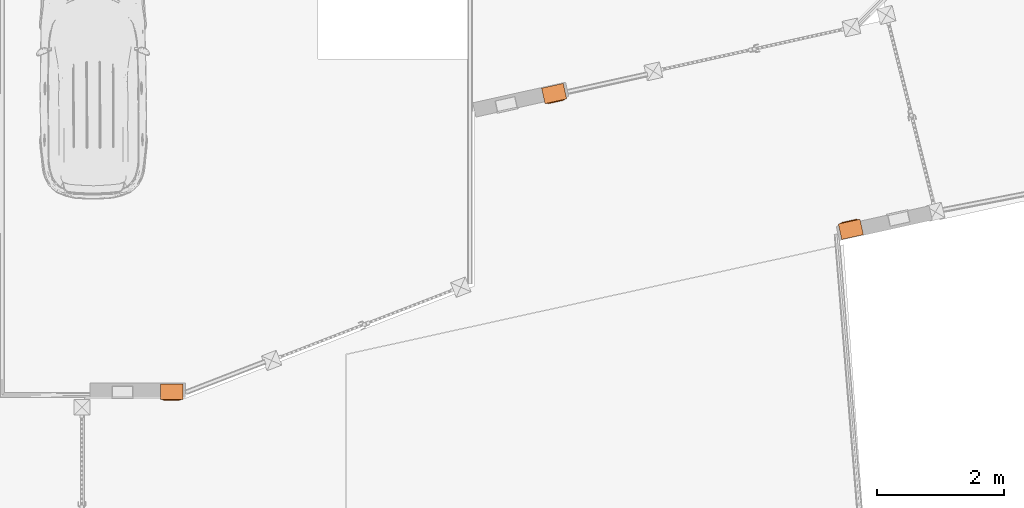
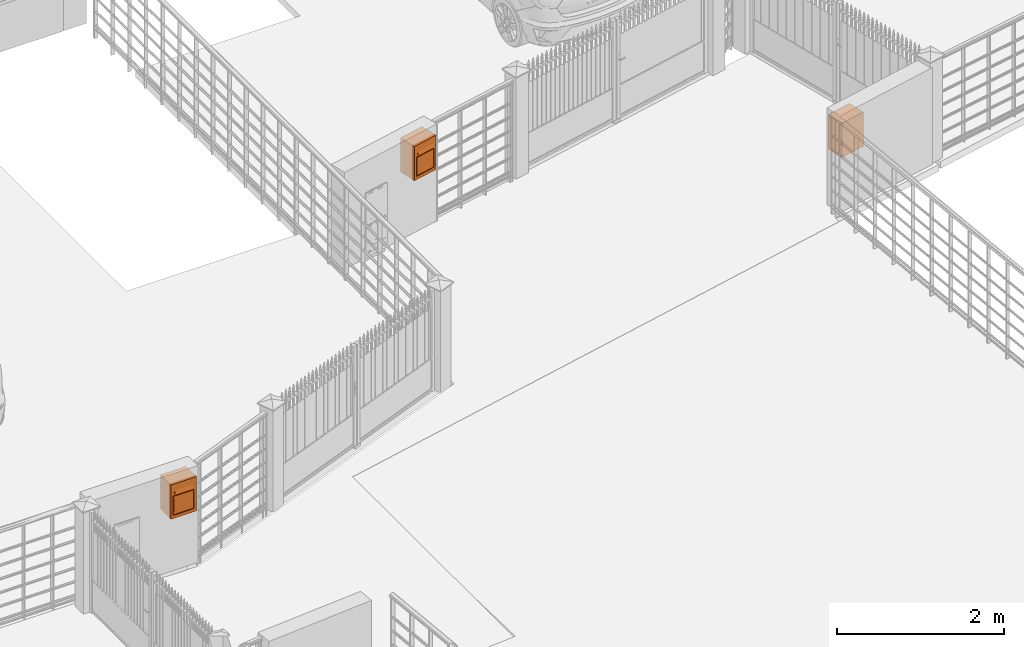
# One storey, part 32 of 33: 3 proxies.
"""IFC2X3 building model written with IfcOpenShell, lengths in metres."""

from ifc_helpers import new_model, entity, si_unit, converted_unit, derived_unit, direction, frame, origin, place, context, subcontext, project, spatial, faceted_brep, source, transform, mapped, material, material_list, element, save


model = new_model("IFC2X3")

# Units and contexts
model_context = context("Model", 3, precision=1e-05, world=origin(), true_north=direction((6.12303176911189e-17, 1.0)))
context_of_model = context(None, 3, precision=1e-05, world=origin(), true_north=direction((6.12303176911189e-17, 1.0)))
body_context = subcontext(model_context, "Body", "Model", "MODEL_VIEW")
ifc_project = project(units=[si_unit("LENGTHUNIT", "METRE"), si_unit("AREAUNIT", "SQUARE_METRE"), si_unit("VOLUMEUNIT", "CUBIC_METRE"), converted_unit("PLANEANGLEUNIT", "DEGREE", entity("IfcRatioMeasure", 0.0174532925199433), si_unit("PLANEANGLEUNIT", "RADIAN"), dimensions=[0, 0, 0, 0, 0, 0, 0]), si_unit("MASSUNIT", "GRAM", prefix="KILO"), si_unit("TIMEUNIT", "SECOND"), si_unit("FREQUENCYUNIT", "HERTZ"), si_unit("THERMODYNAMICTEMPERATUREUNIT", "DEGREE_CELSIUS"), derived_unit("THERMALTRANSMITTANCEUNIT", [(si_unit("MASSUNIT", "GRAM", prefix="KILO"), 1), (si_unit("THERMODYNAMICTEMPERATUREUNIT", "KELVIN"), -1), (si_unit("TIMEUNIT", "SECOND"), -3)]), derived_unit("VOLUMETRICFLOWRATEUNIT", [(si_unit("LENGTHUNIT", "METRE"), 3), (si_unit("TIMEUNIT", "SECOND"), -1)]), si_unit("ELECTRICCURRENTUNIT", "AMPERE"), si_unit("ELECTRICVOLTAGEUNIT", "VOLT"), si_unit("POWERUNIT", "WATT"), si_unit("FORCEUNIT", "NEWTON", prefix="KILO"), si_unit("ILLUMINANCEUNIT", "LUX"), si_unit("LUMINOUSFLUXUNIT", "LUMEN"), si_unit("LUMINOUSINTENSITYUNIT", "CANDELA"), si_unit("PRESSUREUNIT", "PASCAL")], contexts=[model_context, context_of_model])

# Site, building, storey
site_placement = place(None, origin())
site = spatial("IfcSite", under=ifc_project, at=site_placement, Name="Surface", CompositionType="ELEMENT")
building_placement = place(site_placement, origin())
building = spatial("IfcBuilding", under=site, at=building_placement, CompositionType="ELEMENT")
storey_placement = place(building_placement, origin())
storey = spatial("IfcBuildingStorey", under=building, at=storey_placement, Name="Plan des fondations  Maisons 1 et 2", CompositionType="ELEMENT", Elevation=0.0)

# Proxies
ifc_material_1 = material(Name="Peinture - Noir brillant")
ifc_material_2 = material(Name="Peinture - Gris")
ifc_material_list_1 = material_list([ifc_material_1, ifc_material_2])
shared_shape = source(origin(), body_context, "Body", "Brep", [
    faceted_brep([(0.0395430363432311, 0.251294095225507, 0.0548296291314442), (0.0397134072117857, 0.249999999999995, 0.133076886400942), (0.0397134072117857, 0.249999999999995, 0.0549999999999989), (0.0395430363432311, 0.251294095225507, 0.320170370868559), (0.0397134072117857, 0.249999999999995, 0.320000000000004), (0.0397134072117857, 0.249999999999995, 0.280961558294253), (0.0343532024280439, 0.254987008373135, 0.272372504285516), (0.0334193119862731, 0.25482962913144, 0.326294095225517), (0.0347134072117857, 0.254999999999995, 0.325000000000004), (0.0343715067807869, 0.25498829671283, 0.155288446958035), (0.0397134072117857, 0.249999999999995, 0.211153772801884), (0.0303832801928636, 0.252499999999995, 0.329330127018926), (0.0297134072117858, 0.249999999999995, 0.251923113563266), (0.0360075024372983, 0.25482962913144, 0.323705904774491), (0.0372134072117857, 0.254330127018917, 0.322500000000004), (0.0297134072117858, 0.249999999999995, 0.330000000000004), (0.0298837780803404, 0.251294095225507, 0.329829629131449), (0.0298837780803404, 0.251294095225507, 0.0451703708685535), (0.0297134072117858, 0.249999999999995, 0.0449999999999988), (0.0297134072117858, 0.249999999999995, 0.123076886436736), (0.0382489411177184, 0.253535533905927, 0.321464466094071), (0.0303832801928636, 0.252499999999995, 0.0456698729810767), (0.0297134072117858, 0.249999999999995, 0.187499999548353), (0.0341085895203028, 0.254963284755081, 0.219711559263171), (0.0347134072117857, 0.254999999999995, 0.0499999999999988), (0.0334193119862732, 0.25482962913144, 0.0487059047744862), (0.0357268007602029, 0.25489622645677, 0.10372298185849), (0.0311778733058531, 0.253535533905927, 0.0464644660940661), (0.0322134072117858, 0.254330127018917, 0.327500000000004), (0.0390435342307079, 0.252499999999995, 0.320669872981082), (0.031177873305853, 0.253535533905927, 0.328535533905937), (0.0372134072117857, 0.254330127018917, 0.0524999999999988), (0.0360075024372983, 0.25482962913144, 0.0512940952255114), (0.0390435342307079, 0.252499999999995, 0.054330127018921), (0.0382489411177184, 0.253535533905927, 0.0535355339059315), (0.0322134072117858, 0.254330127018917, 0.0474999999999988), (0.117790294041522, 0.249999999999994, 0.320000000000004), (0.309883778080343, 0.251294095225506, 0.320170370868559), (0.309713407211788, 0.249999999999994, 0.320000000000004), (0.231636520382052, 0.249999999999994, 0.320000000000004), (0.264257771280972, 0.25498988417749, 0.325317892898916), (0.316007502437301, 0.254829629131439, 0.326294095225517), (0.314713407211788, 0.254999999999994, 0.325000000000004), (0.174713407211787, 0.249999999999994, 0.330000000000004), (0.21375185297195, 0.25499172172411, 0.32528760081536), (0.150971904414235, 0.254988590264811, 0.324662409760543), (0.107790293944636, 0.249999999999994, 0.330000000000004), (0.0933594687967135, 0.254973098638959, 0.324482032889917), (0.312213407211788, 0.254330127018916, 0.322500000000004), (0.313419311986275, 0.254829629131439, 0.323705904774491), (0.319713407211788, 0.249999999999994, 0.330000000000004), (0.319543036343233, 0.251294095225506, 0.329829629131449), (0.241636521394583, 0.249999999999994, 0.330000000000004), (0.317213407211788, 0.254330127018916, 0.327500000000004), (0.310383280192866, 0.252499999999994, 0.320669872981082), (0.31904353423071, 0.252499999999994, 0.329330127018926), (0.318248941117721, 0.253535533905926, 0.328535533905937), (0.311177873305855, 0.253535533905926, 0.321464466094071), (0.195867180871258, 0.249999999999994, 0.320000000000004), (0.309713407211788, 0.249999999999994, 0.241923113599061), (0.309883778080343, 0.251294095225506, 0.0548296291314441), (0.309713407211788, 0.249999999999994, 0.0549999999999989), (0.309713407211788, 0.249999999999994, 0.0940384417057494), (0.31507361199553, 0.254987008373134, 0.102627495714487), (0.316007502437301, 0.254829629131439, 0.0487059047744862), (0.314713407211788, 0.254999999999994, 0.0499999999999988), (0.315055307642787, 0.254988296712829, 0.219711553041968), (0.309713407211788, 0.249999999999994, 0.163846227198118), (0.31904353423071, 0.252499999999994, 0.0456698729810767), (0.319713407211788, 0.249999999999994, 0.123076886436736), (0.313419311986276, 0.254829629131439, 0.0512940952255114), (0.312213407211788, 0.254330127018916, 0.0524999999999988), (0.319713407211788, 0.249999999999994, 0.0449999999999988), (0.319543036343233, 0.251294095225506, 0.0451703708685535), (0.319713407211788, 0.249999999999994, 0.251923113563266), (0.311177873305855, 0.253535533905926, 0.0535355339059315), (0.319713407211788, 0.249999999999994, 0.187499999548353), (0.315318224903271, 0.25496328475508, 0.155288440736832), (0.313700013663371, 0.254896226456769, 0.271277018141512), (0.317213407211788, 0.254330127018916, 0.0474999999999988), (0.310383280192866, 0.252499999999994, 0.0543301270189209), (0.318248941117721, 0.253535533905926, 0.0464644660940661), (0.107790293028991, 0.249999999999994, 0.0449999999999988), (0.174713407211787, 0.249999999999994, 0.0449999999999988), (0.241636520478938, 0.249999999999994, 0.0449999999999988), (0.231636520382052, 0.249999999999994, 0.0549999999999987), (0.153559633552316, 0.249999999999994, 0.0549999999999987), (0.117790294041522, 0.249999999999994, 0.0549999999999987), (0.0851690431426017, 0.25498988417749, 0.0496821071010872), (0.135674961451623, 0.25499172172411, 0.0497123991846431), (0.198454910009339, 0.25498859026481, 0.0503375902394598), (0.25606734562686, 0.254973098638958, 0.0505179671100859)], [[[0, 1, 2]], [[3, 4, 5]], [[6, 7, 8]], [[9, 10, 1]], [[11, 6, 12]], [[6, 13, 14]], [[15, 16, 12]], [[17, 18, 19]], [[20, 6, 14]], [[21, 17, 19]], [[19, 22, 9]], [[23, 12, 6]], [[24, 25, 26]], [[19, 27, 21]], [[9, 23, 10]], [[6, 28, 7]], [[1, 0, 26]], [[3, 5, 29]], [[29, 5, 20]], [[11, 30, 6]], [[26, 31, 32]], [[26, 33, 34]], [[10, 6, 5]], [[1, 26, 9]], [[23, 6, 10]], [[24, 26, 32]], [[19, 26, 27]], [[12, 23, 22]], [[26, 34, 31]], [[28, 6, 30]], [[26, 0, 33]], [[11, 12, 16]], [[25, 35, 26]], [[9, 26, 19]], [[9, 22, 23]], [[26, 35, 27]], [[8, 13, 6]], [[6, 20, 5]], [[3, 36, 4]], [[37, 38, 39]], [[40, 41, 42]], [[43, 44, 45]], [[46, 45, 47]], [[48, 40, 49]], [[50, 51, 52]], [[16, 15, 46]], [[39, 44, 40]], [[11, 16, 46]], [[43, 45, 46]], [[8, 47, 13]], [[47, 45, 36]], [[46, 30, 11]], [[3, 47, 36]], [[40, 53, 41]], [[43, 52, 44]], [[37, 39, 54]], [[39, 40, 54]], [[55, 56, 40]], [[20, 14, 47]], [[47, 29, 20]], [[48, 57, 40]], [[55, 40, 52]], [[58, 44, 39]], [[44, 52, 40]], [[42, 49, 40]], [[30, 46, 47]], [[13, 47, 14]], [[53, 40, 56]], [[47, 3, 29]], [[55, 52, 51]], [[7, 28, 47]], [[47, 8, 7]], [[45, 58, 36]], [[47, 28, 30]], [[58, 45, 44]], [[57, 54, 40]], [[37, 59, 38]], [[60, 61, 62]], [[63, 64, 65]], [[66, 67, 59]], [[68, 63, 69]], [[63, 70, 71]], [[72, 73, 69]], [[51, 50, 74]], [[75, 63, 71]], [[55, 51, 74]], [[74, 76, 66]], [[77, 69, 63]], [[42, 41, 78]], [[74, 56, 55]], [[66, 77, 67]], [[63, 79, 64]], [[59, 37, 78]], [[60, 62, 80]], [[80, 62, 75]], [[68, 81, 63]], [[78, 48, 49]], [[78, 54, 57]], [[67, 63, 62]], [[59, 78, 66]], [[77, 63, 67]], [[42, 78, 49]], [[74, 78, 56]], [[69, 77, 76]], [[78, 57, 48]], [[79, 63, 81]], [[78, 37, 54]], [[68, 69, 73]], [[41, 53, 78]], [[66, 78, 74]], [[66, 76, 77]], [[78, 53, 56]], [[65, 70, 63]], [[63, 75, 62]], [[50, 38, 59]], [[50, 59, 67]], [[50, 67, 62]], [[50, 62, 61]], [[50, 39, 38]], [[50, 58, 39]], [[50, 36, 58]], [[50, 4, 36]], [[4, 50, 52]], [[61, 74, 50]], [[4, 52, 43]], [[4, 43, 46]], [[4, 46, 15]], [[15, 5, 4]], [[15, 10, 5]], [[15, 1, 10]], [[15, 2, 1]], [[2, 15, 12]], [[2, 12, 22]], [[2, 22, 19]], [[2, 19, 18]], [[2, 18, 82]], [[2, 82, 83]], [[2, 83, 84]], [[2, 84, 72]], [[72, 61, 85]], [[61, 72, 69]], [[72, 85, 86]], [[72, 86, 87]], [[72, 87, 2]], [[61, 69, 76]], [[61, 76, 74]], [[60, 85, 61]], [[0, 2, 87]], [[88, 25, 24]], [[83, 89, 90]], [[84, 90, 91]], [[31, 88, 32]], [[18, 17, 82]], [[73, 72, 84]], [[87, 89, 88]], [[68, 73, 84]], [[83, 90, 84]], [[65, 91, 70]], [[91, 90, 85]], [[84, 81, 68]], [[60, 91, 85]], [[88, 35, 25]], [[83, 82, 89]], [[0, 87, 33]], [[87, 88, 33]], [[21, 27, 88]], [[75, 71, 91]], [[91, 80, 75]], [[31, 34, 88]], [[21, 88, 82]], [[86, 89, 87]], [[89, 82, 88]], [[24, 32, 88]], [[81, 84, 91]], [[70, 91, 71]], [[35, 88, 27]], [[91, 60, 80]], [[21, 82, 17]], [[64, 79, 91]], [[91, 65, 64]], [[90, 86, 85]], [[91, 79, 81]], [[86, 90, 89]], [[34, 33, 88]]]),
    faceted_brep([(0.35, 0.0, 0.500000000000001), (0.35, 0.249999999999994, 0.500000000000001), (0.0, 0.249999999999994, 0.500000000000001), (0.0, 0.0, 0.500000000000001), (0.35, 0.0, 0.0), (0.0, 0.0, 0.0), (0.0, 0.249999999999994, 0.0), (0.35, 0.249999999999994, 0.0), (0.300000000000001, 0.249999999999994, 0.399999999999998), (0.0500000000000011, 0.249999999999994, 0.399999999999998), (0.0500000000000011, 0.249999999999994, 0.390317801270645), (0.0500000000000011, 0.249999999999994, 0.350000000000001), (0.300000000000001, 0.249999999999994, 0.350000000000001), (0.300000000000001, 0.249999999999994, 0.390317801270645), (0.340000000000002, 0.00999999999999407, 0.489999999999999), (0.010000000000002, 0.00999999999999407, 0.489999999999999), (0.010000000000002, 0.239999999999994, 0.489999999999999), (0.340000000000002, 0.239999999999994, 0.489999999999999), (0.340000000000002, 0.00999999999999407, 0.0100000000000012), (0.340000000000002, 0.239999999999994, 0.0100000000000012), (0.010000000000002, 0.239999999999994, 0.0100000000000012), (0.010000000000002, 0.00999999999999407, 0.0100000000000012), (0.0500000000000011, 0.239999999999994, 0.350000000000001), (0.0500000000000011, 0.239999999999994, 0.399999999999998), (0.300000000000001, 0.239999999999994, 0.399999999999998), (0.300000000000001, 0.239999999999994, 0.350000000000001)], [[[0, 1, 2, 3]], [[4, 5, 6, 7]], [[1, 0, 4, 7]], [[2, 1, 7, 6], [8, 9, 10, 11, 12, 13]], [[3, 2, 6, 5]], [[0, 3, 5, 4]], [[14, 15, 16, 17]], [[18, 19, 20, 21]], [[14, 17, 19, 18]], [[17, 16, 20, 19], [22, 23, 24, 25]], [[16, 15, 21, 20]], [[15, 14, 18, 21]], [[9, 23, 22, 11, 10]], [[23, 9, 8, 24]], [[24, 8, 13, 12, 25]], [[11, 22, 25, 12]]]),
    faceted_brep([(0.300000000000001, 0.263738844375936, 0.351924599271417), (0.300000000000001, 0.249999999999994, 0.399999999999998), (0.300000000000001, 0.249999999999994, 0.390317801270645), (0.300000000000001, 0.261180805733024, 0.351193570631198), (0.0500000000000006, 0.263738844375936, 0.351924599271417), (0.0500000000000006, 0.261180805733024, 0.351193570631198), (0.0500000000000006, 0.249999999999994, 0.390317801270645), (0.0500000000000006, 0.249999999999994, 0.399999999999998)], [[[0, 1, 2, 3]], [[4, 5, 6, 7]], [[3, 2, 6, 5]], [[2, 1, 7, 6]], [[1, 0, 4, 7]], [[0, 3, 5, 4]]]),
])
proxy_1_placement = place(storey_placement, frame((77.765128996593, 74.4190156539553, 0.787401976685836), z_axis=(0.0, 0.0, 1.0), x_axis=(-0.976296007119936, -0.216439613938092, 0.0)))
element("IfcBuildingElementProxy", 1, at=proxy_1_placement, inside=storey, material=ifc_material_list_1, Name="Boîte aux lettres encastrée:350mm x 500mm  beige", ObjectType="350mm x 500mm  beige", context=body_context, shape_type="MappedRepresentation", body=[
    mapped(shared_shape, transform((0.0, 0.0, 0.0), scale=1.0)),
])
ifc_material_list_2 = material_list([ifc_material_1, ifc_material_2])
proxy_2_placement = place(storey_placement, frame((71.7636977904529, 69.681537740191, 0.787401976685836), z_axis=(0.0, 0.0, 1.0), x_axis=(-1.0, 0.0, 0.0)))
element("IfcBuildingElementProxy", 2, at=proxy_2_placement, inside=storey, material=ifc_material_list_2, Name="Boîte aux lettres encastrée:350mm x 500mm  beige", ObjectType="350mm x 500mm  beige", context=body_context, shape_type="MappedRepresentation", body=[
    mapped(shared_shape, transform((0.0, 0.0, 0.0), scale=1.0)),
])
ifc_material_list_3 = material_list([ifc_material_1, ifc_material_2])
proxy_3_placement = place(storey_placement, frame((82.158020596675, 71.9575177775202, 0.787401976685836), z_axis=(0.0, 0.0, 1.0), x_axis=(0.976296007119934, 0.216439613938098, 0.0)))
element("IfcBuildingElementProxy", 3, at=proxy_3_placement, inside=storey, material=ifc_material_list_3, Name="Boîte aux lettres encastrée:350mm x 500mm  beige", ObjectType="350mm x 500mm  beige", context=body_context, shape_type="MappedRepresentation", body=[
    mapped(shared_shape, transform((0.0, 0.0, 0.0), scale=1.0)),
])

save(model, "model.ifc")
